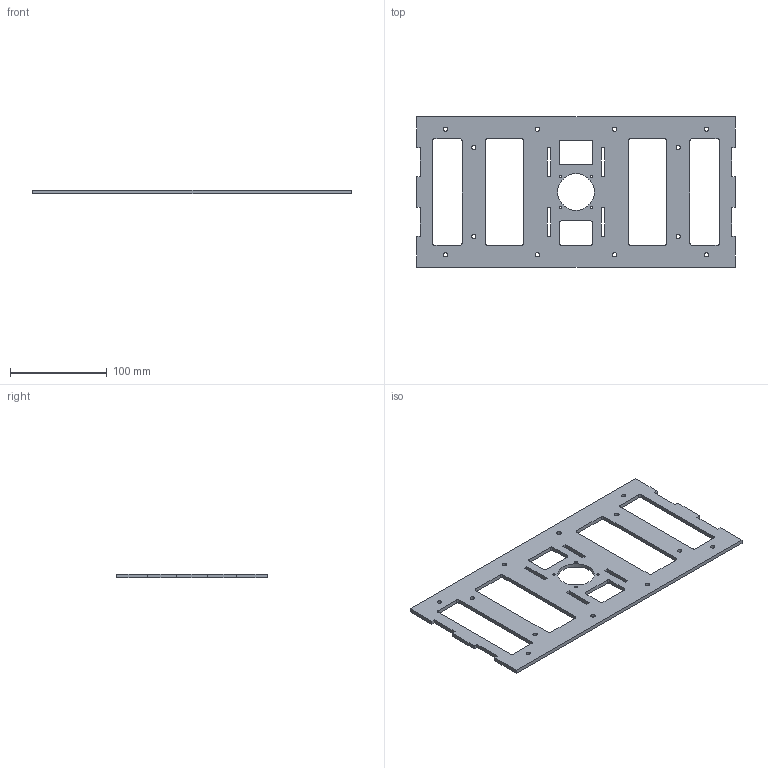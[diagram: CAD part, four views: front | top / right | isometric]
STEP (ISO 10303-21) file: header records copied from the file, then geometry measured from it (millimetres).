
FILE_DESCRIPTION (( 'STEP AP203' ), '1' );
FILE_NAME ('E-Rückplatte_Lager.STEP', '2026-04-23T17:16:53', ( '' ), ( '' ), 'SwSTEP 2.0', 'SolidWorks 2025', '' );
FILE_SCHEMA (( 'CONFIG_CONTROL_DESIGN' ));
Length unit declared in the file: millimetre
Products named in the file (1): E-Rückplatte_Lager
Bounding box: 330 x 156 x 4 mm (x, y, z)
Volume: 127216 mm3; surface area: 75529 mm2
Topology: 1 solids, 1 shells, 120 faces, 354 edges, 236 vertices
Faces by surface type: plane 62, cylinder 58
Entity records: 4219 total; most frequent: DIRECTION 712, CARTESIAN_POINT 711, ORIENTED_EDGE 708, EDGE_CURVE 354, LINE 238, VECTOR 238, AXIS2_PLACEMENT_3D 237, VERTEX_POINT 236
